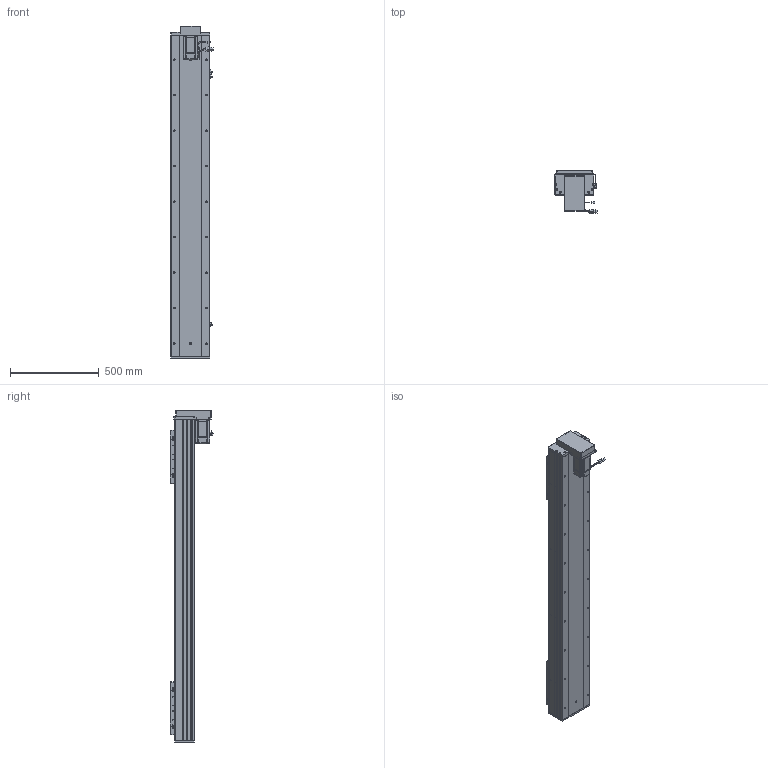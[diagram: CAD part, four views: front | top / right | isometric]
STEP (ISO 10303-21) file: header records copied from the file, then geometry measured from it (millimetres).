
FILE_DESCRIPTION (( 'STEP AP203' ), '1' );
FILE_NAME ('RY220F-L2525-300-BK.SLDASM_1400.step', '2022-07-04T01:21:12', ( '' ), ( '' ), 'SwSTEP 2.0', 'SolidWorks 2016', '' );
FILE_SCHEMA (( 'CONFIG_CONTROL_DESIGN' ));
Length unit declared in the file: millimetre
Products named in the file (15): RY220F-蛌殏奻裔啣-300_1400; RY220F-詩湍揤踡輸; RY220F-祥凄詩湍-蛌殏-300_1400; RY220F綴裔啣; 滅袉蝶18-24; RY220F臏賑釱25-32佪裝; RY220F-672覜茼んえ; RY220F蛌殏菁釱-300_1400; 覜茼ん672; RY220狟殏萇儂欶; RY220F-滅鳥奻裔; 侐源滅袉蝶; 怢湛750W_ECMA-CX0807ES; RY220F-L2525-300-BK.SLDASM_1400; RY220狟殏萇儂假蚾啣
Assembly tree (24 placements, depth 2):
  RY220F-L2525-300-BK.SLDASM_1400
    RY220F蛌殏菁釱-300_1400
    RY220F-蛌殏奻裔啣-300_1400  x2
    怢湛750W_ECMA-CX0807ES
    RY220F臏賑釱25-32佪裝  x2
    RY220F-滅鳥奻裔  x2
    滅袉蝶18-24  x3
    RY220F綴裔啣
    RY220F-祥凄詩湍-蛌殏-300_1400
    RY220F-詩湍揤踡輸  x2
    覜茼ん672  x3
    RY220F-672覜茼んえ  x2
    侐源滅袉蝶  x2
    RY220狟殏萇儂假蚾啣
    RY220狟殏萇儂欶
Bounding box: 237.27 x 247.24 x 1871 mm (x, y, z)
Volume: 17064452.5 mm3; surface area: 4447301 mm2
Topology: 25 solids, 25 shells, 2811 faces, 7634 edges, 4713 vertices
Faces by surface type: cylinder 1254, plane 1062, cone 424, bspline 45, sphere 16, torus 10
Entity records: 69789 total; most frequent: CARTESIAN_POINT 18843, ORIENTED_EDGE 10290, DIRECTION 10021, EDGE_CURVE 5145, AXIS2_PLACEMENT_3D 3558, VERTEX_POINT 3329, LINE 2905, VECTOR 2905
